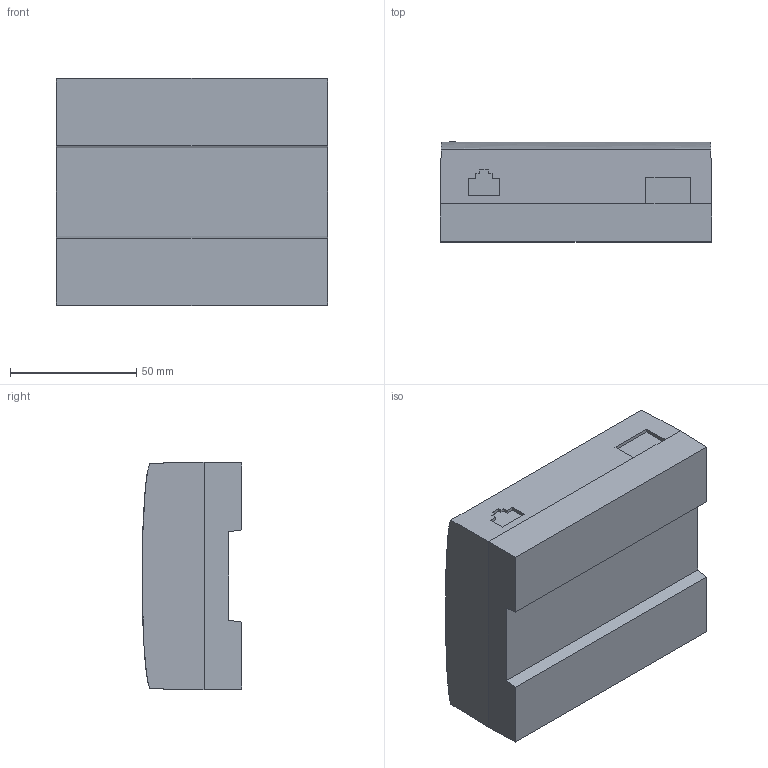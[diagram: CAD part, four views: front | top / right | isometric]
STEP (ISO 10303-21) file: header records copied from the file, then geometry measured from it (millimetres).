
FILE_DESCRIPTION(/* description */ ('STEP AP242','CAx-IF Rec.Pracs.---Representation and Presentation of Product Manufacturing Information (PMI)---4.0---2014-10-13','CAx-IF Rec.Pracs.---3D Tessellated Geometry---0.4---2014-09-14','2;1'),/* implementation_level */ '2;1');
FILE_NAME(/* name */ '6634dcf77859092b1b9c28d9',/* time_stamp */ '2024-05-03T12:47:51Z',/* author */ (''),/* organization */ (''),/* preprocessor_version */ 'ST-DEVELOPER v20',/* originating_system */ ' ',/* authorisation */ ' ');
FILE_SCHEMA (('AP242_MANAGED_MODEL_BASED_3D_ENGINEERING_MIM_LF { 1 0 10303 442 1 1 4 }'));
Length unit declared in the file: metre
Products named in the file (1): XPC
Bounding box: 107.5 x 39.5 x 90 mm (x, y, z)
Volume: 351379.1 mm3; surface area: 34875 mm2
Topology: 1 solids, 1 shells, 100 faces, 249 edges, 164 vertices
Faces by surface type: plane 83, bspline 9, cylinder 8
Full cylindrical faces by diameter (mm): 2.3 x8
Entity records: 3121 total; most frequent: CARTESIAN_POINT 803, ORIENTED_EDGE 482, DIRECTION 407, EDGE_CURVE 241, LINE 223, VECTOR 223, VERTEX_POINT 164, EDGE_LOOP 121
